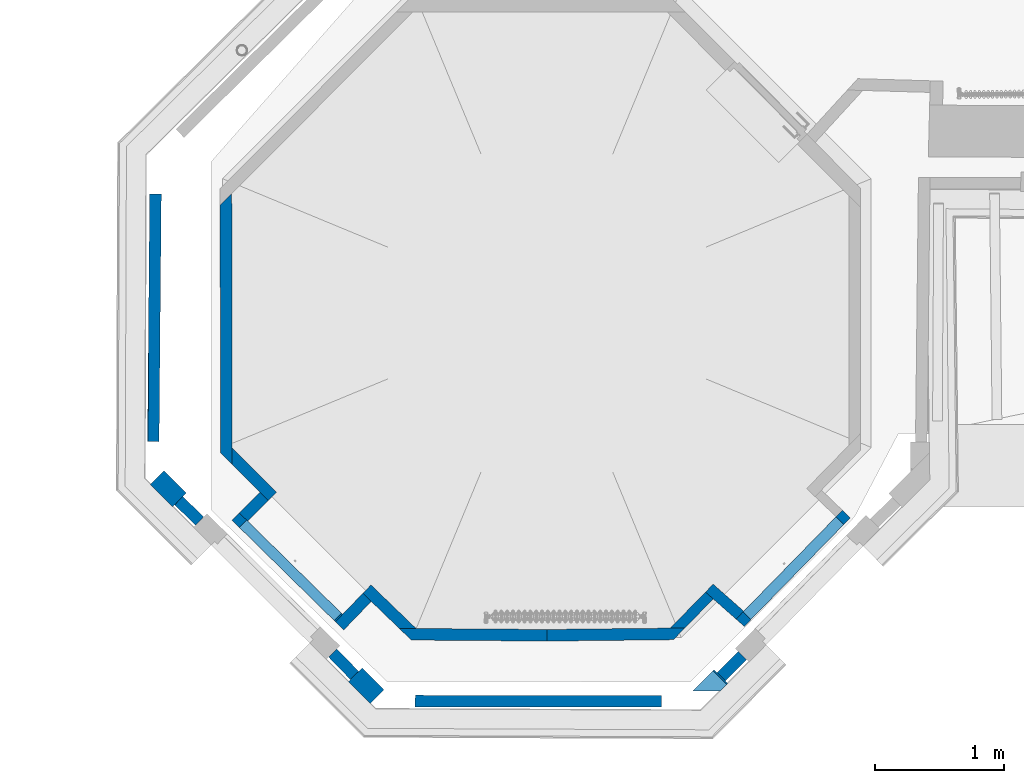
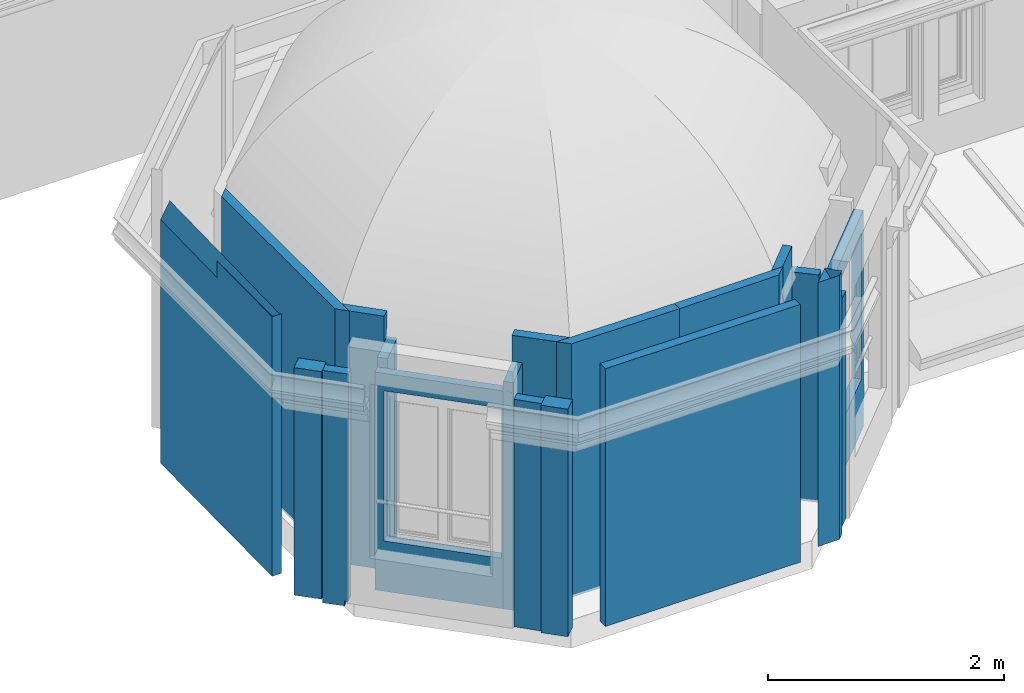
# One storey, part 4 of 72: 19 walls, 2 openings.
"""IFC2X3 building model written with IfcOpenShell, lengths in centimetres."""

from ifc_helpers import new_model, entity, si_unit, converted_unit, direction, frame, origin, origin_with_axes, origin_2d_with_axis, place, context, subcontext, project, spatial, polyline, rectangle, outline, extrude, clip, bounded_halfspace, shape, material, layer, layer_set, layer_usage, type_object, element, save


model = new_model("IFC2X3")

# Units and contexts
model_context = context("Model", 3, precision=0.0001, world=origin(), true_north=direction((0.225632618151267, 0.974212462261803, 0.0)))
body_context = subcontext(model_context, "Body", "Model", "MODEL_VIEW")
footprint_context = subcontext(model_context, "FootPrint", "Model", "MODEL_VIEW")
profile_context = subcontext(model_context, "Profile", "Model", "MODEL_VIEW")
ifc_project = project(units=[si_unit("LENGTHUNIT", "METRE", prefix="CENTI"), si_unit("AREAUNIT", "SQUARE_METRE", prefix="CENTI"), si_unit("VOLUMEUNIT", "CUBIC_METRE", prefix="CENTI"), converted_unit("PLANEANGLEUNIT", "DEGREE", entity("IfcRatioMeasure", 0.0174532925), si_unit("PLANEANGLEUNIT", "RADIAN"), dimensions=[0, 0, 0, 0, 0, 0, 0])], contexts=[model_context])

# Site, building, storey
site_placement = place(None, origin_with_axes())
site = spatial("IfcSite", under=ifc_project, at=site_placement, Name="Default Site", CompositionType="ELEMENT")
building_placement = place(site_placement, origin_with_axes())
building = spatial("IfcBuilding", under=site, at=building_placement, Name="Default Building", CompositionType="ELEMENT")
storey_placement = place(building_placement, frame((0.0, 0.0, 853.910374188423), z_axis=(0.0, 0.0, 1.0), x_axis=(1.0, 0.0, 0.0)))
storey = spatial("IfcBuildingStorey", under=building, at=storey_placement, Name="Niveau 2", CompositionType="ELEMENT", Elevation=853.910374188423)

# Walls
ifc_material = material(Name="<aucun>")
ifc_layer_1 = layer(ifc_material, 9.0)
ifc_layer_set_1 = layer_set([ifc_layer_1], Name="default")
ifc_layer_usage_1 = layer_usage(ifc_layer_set_1, "AXIS2", "POSITIVE", -4.5)
wall_type_1 = type_object("IfcWallType", Name="default 90", PredefinedType="NOTDEFINED", material=ifc_layer_set_1)
wall_1_placement = place(storey_placement, frame((-818.100513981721, -1119.35865631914, -1.95399252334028e-11), z_axis=(0.0, 0.0, 1.0), x_axis=(0.707579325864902, 0.706633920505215, 0.0)))
element("IfcWallStandardCase", 1, at=wall_1_placement, inside=storey, type_object=wall_type_1, material=ifc_layer_usage_1, Name="Enveloppe 466177", context=body_context, shape_type="SweptSolid", body=[
    extrude(rectangle(XDim=23.1636549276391, YDim=9.0000000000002, at=origin_2d_with_axis()), frame((11.681853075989, -8.88178419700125e-14, 1.98951966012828e-11), z_axis=(0.0, 0.0, 1.0), x_axis=(1.0, -1.21014309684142e-14, 0.0)), (0.0, 0.0, 1.0), 234.999999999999),
])
ifc_layer_usage_2 = layer_usage(ifc_layer_set_1, "AXIS2", "POSITIVE", -4.5)
wall_2_placement = place(storey_placement, frame((-1101.49557101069, -1118.55101095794, -1.95399252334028e-11), z_axis=(0.0, 0.0, 1.0), x_axis=(-0.696146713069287, 0.717899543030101, 0.0)))
element("IfcWallStandardCase", 2, at=wall_2_placement, inside=storey, type_object=wall_type_1, material=ifc_layer_usage_2, Name="Enveloppe 465918", context=body_context, shape_type="SweptSolid", body=[
    extrude(rectangle(XDim=8.9999999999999, YDim=24.162144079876, at=origin_2d_with_axis()), frame((12.3919400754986, 1.77635683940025e-13, 1.98951966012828e-11), z_axis=(0.0, 0.0, 1.0), x_axis=(1.37667655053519e-14, -1.0, 0.0)), (0.0, 0.0, 1.0), 234.999999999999),
])
ifc_layer_usage_3 = layer_usage(ifc_layer_set_1, "AXIS2", "POSITIVE", -4.5)
wall_3_placement = place(storey_placement, frame((-864.223911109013, -1138.40849649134, -1.95399252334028e-11), z_axis=(0.0, 0.0, 1.0), x_axis=(-0.999999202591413, 0.00126286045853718, 0.0)))
element("IfcWallStandardCase", 3, at=wall_3_placement, inside=storey, type_object=wall_type_1, material=ifc_layer_usage_3, Name="Enveloppe 465969", context=body_context, shape_type="Clipping", body=[
    clip(clip(extrude(outline(polyline([(190.516561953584, 4.49935106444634), (190.501569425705, 4.49933213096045), (190.514790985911, 4.49488070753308), (0.0736041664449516, 4.4999991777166), (0.0742552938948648, -4.49999999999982), (190.481342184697, -4.50000000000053), (190.516561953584, 4.49935106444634)])), frame((0.0, 0.0, 1.98951966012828e-11), z_axis=(0.0, 0.0, 1.0), x_axis=(1.0, 0.0, 0.0)), (0.0, 0.0, 1.0), 266.360128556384), bounded_halfspace(frame((0.0742552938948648, -4.49999999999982, 266.360128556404), z_axis=(-0.00251484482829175, -0.871957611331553, -0.489574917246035), x_axis=(0.00191564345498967, 0.489571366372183, -0.87196112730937)), True, frame((0.0742552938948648, -4.49999999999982, 266.360128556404), z_axis=(0.0, 0.0, 1.0), x_axis=(1.0, 0.0, 0.0)), polyline([(0.0, 1.77635683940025e-13), (190.407086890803, -5.32907051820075e-13), (190.440535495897, 8.99503600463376), (0.0, 9.00000000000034), (0.0, 1.77635683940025e-13)]))), bounded_halfspace(frame((190.516538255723, 4.49488291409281, 249.361526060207), z_axis=(-0.00251484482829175, -0.871957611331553, -0.489574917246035), x_axis=(0.856491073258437, -0.254576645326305, 0.449014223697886)), True, frame((190.516538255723, 4.49488291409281, 249.361526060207), z_axis=(0.0, 0.0, 1.0), x_axis=(1.0, 0.0, 0.0)), polyline([(-0.0149688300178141, 0.00444921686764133), (2.28783463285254e-05, 0.00511708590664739), (-0.0149688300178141, 0.00444921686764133)]))),
])
ifc_layer_usage_4 = layer_usage(ifc_layer_set_1, "AXIS2", "POSITIVE", -4.5)
wall_4_placement = place(storey_placement, frame((-1257.40110413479, -937.656896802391, -1.95399252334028e-11), z_axis=(0.0, 0.0, 1.0), x_axis=(0.00897423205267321, 0.999959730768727, 0.0)))
element("IfcWallStandardCase", 4, at=wall_4_placement, inside=storey, type_object=wall_type_1, material=ifc_layer_usage_4, Name="Enveloppe 465740", context=body_context, shape_type="Clipping", body=[
    clip(clip(clip(clip(clip(clip(extrude(outline(polyline([(0.144201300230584, 4.50000000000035), (0.144201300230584, -4.11118351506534), (0.156712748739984, -4.50011718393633), (191.70606206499, -4.49999999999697), (191.70606206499, 4.50000000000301), (0.144201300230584, 4.50000000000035)])), frame((0.0, 0.0, 1.95399252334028e-11), z_axis=(0.0, 0.0, 1.0), x_axis=(1.0, 0.0, 0.0)), (0.0, 0.0, 1.0), 268.245252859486), bounded_halfspace(frame((191.70606206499, -3.94984250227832, 267.24941645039), z_axis=(0.00470099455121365, -0.875296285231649, -0.483564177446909), x_axis=(0.00307166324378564, -0.48355459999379, 0.875308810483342)), True, frame((191.70606206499, -3.94984250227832, 267.24941645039), z_axis=(0.0, 0.0, 1.0), x_axis=(1.0, 0.0, 0.0)), polyline([(-0.0536755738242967, 8.44984250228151), (8.88178419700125e-14, 0.0), (-1.77635683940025e-13, 8.44984250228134), (-0.0536755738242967, 8.44984250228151)]))), bounded_halfspace(frame((0.144201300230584, 3.96185704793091, 251.0662232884), z_axis=(0.00470099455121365, -0.875296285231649, -0.483564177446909), x_axis=(0.999983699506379, 0.00568185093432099, -0.000563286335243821)), True, frame((0.144201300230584, 3.96185704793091, 251.0662232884), z_axis=(0.0, 0.0, 1.0), x_axis=(1.0, 0.0, 0.0)), polyline([(0.00305801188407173, 1.73754511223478e-05), (94.7110697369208, 0.538142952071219), (0.0, 0.53814295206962), (0.00305801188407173, 1.73754511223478e-05)]))), bounded_halfspace(frame((0.156711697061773, -4.49999999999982, 266.383095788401), z_axis=(0.00470099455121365, -0.875296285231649, -0.483564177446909), x_axis=(-0.00274754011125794, 0.483556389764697, -0.875308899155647)), True, frame((0.156711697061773, -4.49999999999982, 266.383095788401), z_axis=(0.0, 0.0, 1.0), x_axis=(1.0, 0.0, 0.0)), polyline([(-0.0125103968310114, -1.77635683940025e-13), (0.0, 1.77635683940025e-13), (-0.0125103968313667, 2.20178125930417), (-0.0125103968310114, -1.77635683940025e-13)]))), bounded_halfspace(frame((191.70606206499, -4.49999999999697, 268.245252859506), z_axis=(0.00470099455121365, -0.875296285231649, -0.483564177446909), x_axis=(-0.999983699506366, -0.00568185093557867, 0.00056328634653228)), True, frame((191.70606206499, -4.49999999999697, 268.245252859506), z_axis=(0.0, 0.0, 1.0), x_axis=(1.0, 0.0, 0.0)), polyline([(-96.825222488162, -1.06581410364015e-12), (0.0, 1.77635683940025e-13), (-0.0056638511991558, 0.550123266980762), (-96.825222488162, -1.06581410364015e-12)]))), bounded_halfspace(frame((94.880839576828, -4.49999999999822, 267.303961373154), z_axis=(0.00470099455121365, -0.875296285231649, -0.483564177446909), x_axis=(-0.00307166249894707, 0.483554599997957, -0.875308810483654)), True, frame((94.880839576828, -4.49999999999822, 267.303961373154), z_axis=(0.0, 0.0, 1.0), x_axis=(1.0, 0.0, 0.0)), polyline([(-94.7110695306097, -1.4210854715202e-12), (0.0, 1.77635683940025e-13), (96.8252224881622, 0.550155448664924), (96.7715469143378, 9.00000000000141), (-0.0255685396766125, 9.00000000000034), (-94.7366382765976, 8.4618570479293), (-94.7110695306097, -1.4210854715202e-12)]))), bounded_halfspace(frame((0.169770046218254, -4.49999999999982, 266.383222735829), z_axis=(0.00470099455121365, -0.875296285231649, -0.483564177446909), x_axis=(0.00274754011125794, -0.483556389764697, 0.875308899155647)), True, frame((0.169770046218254, -4.49999999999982, 266.383222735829), z_axis=(0.0, 0.0, 1.0), x_axis=(1.0, 0.0, 0.0)), polyline([(-0.0130583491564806, 1.77635683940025e-13), (0.0, 1.77635683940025e-13), (-0.025568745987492, 4.4999999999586), (-0.0130583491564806, 1.77635683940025e-13)]))),
])
ifc_layer_usage_5 = layer_usage(ifc_layer_set_1, "AXIS2", "POSITIVE", -4.5)
wall_5_placement = place(storey_placement, frame((-1221.49114347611, -998.849791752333, -4.99999999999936), z_axis=(0.0, 0.0, 1.0), x_axis=(-0.720187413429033, 0.693779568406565, 0.0)))
element("IfcWallStandardCase", 5, at=wall_5_placement, inside=storey, type_object=wall_type_1, material=ifc_layer_usage_5, Name="Enveloppe 465917", context=body_context, shape_type="Clipping", body=[
    clip(clip(extrude(rectangle(XDim=9.00000000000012, YDim=22.5454551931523, at=origin_2d_with_axis()), frame((11.3061138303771, -5.32907051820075e-13, 7.105427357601e-13), z_axis=(0.0, 0.0, 1.0), x_axis=(-1.4210854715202e-14, -1.0, 0.0)), (0.0, 0.0, 1.0), 239.999999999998), bounded_halfspace(frame((3.28163518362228, -4.50000000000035, 4.99999999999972), z_axis=(0.0, 0.0, 1.0), x_axis=(-1.0, 3.30013794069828e-13, 0.0)), True, frame((3.28163518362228, -4.50000000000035, 4.99999999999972), z_axis=(0.0, 0.0, 1.0), x_axis=(1.0, 0.0, 0.0)), polyline([(-3.24824894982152, -1.77635683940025e-13), (-3.24824894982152, 9.00000000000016), (0.0, 9.00000000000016), (-1.77635683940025e-13, 0.0), (-3.24824894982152, -1.77635683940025e-13)]))), bounded_halfspace(frame((22.5649014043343, 4.49999999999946, 4.99999999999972), z_axis=(0.0, 0.0, -1.0), x_axis=(-1.36557432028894e-14, -1.0, 0.0)), True, frame((22.5649014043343, 4.49999999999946, 4.99999999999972), z_axis=(0.0, 0.0, 1.0), x_axis=(1.0, 0.0, 0.0)), polyline([(-2.66453525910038e-13, -9.00000000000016), (0.0139400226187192, -8.99999999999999), (0.013940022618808, -1.77635683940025e-13), (0.0, 0.0), (-2.66453525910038e-13, -9.00000000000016)]))),
])
ifc_layer_usage_6 = layer_usage(ifc_layer_set_1, "AXIS2", "POSITIVE", -4.5)
wall_6_placement = place(storey_placement, frame((-1113.17419853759, -1079.91840818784, 1.4210854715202e-12), z_axis=(0.0, 0.0, 1.0), x_axis=(0.694178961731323, 0.719802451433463, 0.0)))
element("IfcWallStandardCase", 6, at=wall_6_placement, inside=storey, type_object=wall_type_1, material=ifc_layer_usage_6, Name="Enveloppe 470010", context=body_context, shape_type="Clipping", body=[
    clip(extrude(outline(polyline([(-0.0719047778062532, 4.50000000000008), (-0.153111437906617, -4.50000000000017), (30.5137238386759, -4.49999999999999), (30.5137238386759, 4.50000000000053), (-0.0719047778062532, 4.50000000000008)])), origin_with_axes(), (0.0, 0.0, 1.0), 234.999999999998), bounded_halfspace(frame((-0.153111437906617, -4.50000000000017, 224.999999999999), z_axis=(0.0, 0.0, -1.0), x_axis=(1.0, 4.79338790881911e-13, 0.0)), True, frame((-0.153111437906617, -4.50000000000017, 224.999999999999), z_axis=(0.0, 0.0, 1.0), x_axis=(1.0, 0.0, 0.0)), polyline([(1.77635683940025e-13, -8.88178419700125e-14), (0.153111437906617, 0.0), (0.153111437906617, 9.00000000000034), (0.0812066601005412, 9.00000000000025), (1.77635683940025e-13, -8.88178419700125e-14)]))),
])
ifc_layer_usage_7 = layer_usage(ifc_layer_set_1, "AXIS2", "POSITIVE", -4.5)
wall_7_placement = place(storey_placement, frame((-1187.59892836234, -995.740371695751, 1.4210854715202e-12), z_axis=(0.0, 0.0, 1.0), x_axis=(0.705234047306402, 0.708974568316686, 0.0)))
element("IfcWallStandardCase", 7, at=wall_7_placement, inside=storey, type_object=wall_type_1, material=ifc_layer_usage_7, Name="Enveloppe 470107", context=body_context, shape_type="Clipping", body=[
    clip(extrude(outline(polyline([(-0.0580676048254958, 4.49999999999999), (0.0, -4.50000000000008), (22.6636891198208, -4.50000000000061), (22.6636891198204, 4.49999999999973), (-0.0580676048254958, 4.49999999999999)])), frame((0.0, 0.0, 3.5527136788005e-13), z_axis=(0.0, 0.0, 1.0), x_axis=(1.0, 0.0, 0.0)), (0.0, 0.0, 1.0), 234.999999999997), bounded_halfspace(frame((0.0, -4.50000000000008, 224.999999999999), z_axis=(0.0, 0.0, -1.0), x_axis=(-1.3988810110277e-14, 1.0, 0.0)), True, frame((0.0, -4.50000000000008, 224.999999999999), z_axis=(0.0, 0.0, 1.0), x_axis=(1.0, 0.0, 0.0)), polyline([(-0.0580676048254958, 9.00000000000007), (0.0, 0.0), (-1.77635683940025e-13, 8.99999999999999), (-0.0580676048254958, 9.00000000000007)]))),
])
ifc_layer_usage_8 = layer_usage(ifc_layer_set_1, "AXIS2", "POSITIVE", -4.5)
wall_8_placement = place(storey_placement, frame((-1171.63255550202, -973.308453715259, 1.4210854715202e-12), z_axis=(0.0, 0.0, 1.0), x_axis=(-0.708974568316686, 0.705234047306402, 0.0)))
element("IfcWallStandardCase", 8, at=wall_8_placement, inside=storey, type_object=wall_type_1, material=ifc_layer_usage_8, Name="Enveloppe 159546", context=body_context, shape_type="Clipping", body=[
    clip(extrude(outline(polyline([(39.3859664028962, -4.50000000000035), (30.4050450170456, 4.50000000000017), (-9.00000000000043, 4.50000000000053), (-9.00000000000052, -4.50000000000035), (39.3859664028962, -4.50000000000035)])), frame((0.0, 0.0, -1.77635683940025e-13), z_axis=(0.0, 0.0, 1.0), x_axis=(1.0, 0.0, 0.0)), (0.0, 0.0, 1.0), 261.845587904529), bounded_halfspace(frame((-9.00000000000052, -4.50000000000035, 234.999999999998), z_axis=(0.0, 0.0, -1.0), x_axis=(1.0, -2.22044604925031e-16, 0.0)), True, frame((-9.00000000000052, -4.50000000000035, 234.999999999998), z_axis=(0.0, 0.0, 1.0), x_axis=(1.0, 0.0, 0.0)), polyline([(8.88178419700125e-14, -1.77635683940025e-13), (9.0000000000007, 1.77635683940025e-13), (9.00000000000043, 9.00000000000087), (1.77635683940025e-13, 9.00000000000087), (8.88178419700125e-14, -1.77635683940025e-13)]))),
])
ifc_layer_usage_9 = layer_usage(ifc_layer_set_1, "AXIS2", "POSITIVE", -4.5)
wall_9_placement = place(storey_placement, frame((-1057.20152777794, -1085.25504829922, 1.4210854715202e-12), z_axis=(0.0, 0.0, 1.0), x_axis=(-0.719802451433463, 0.694178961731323, 0.0)))
element("IfcWallStandardCase", 9, at=wall_9_placement, inside=storey, type_object=wall_type_1, material=ifc_layer_usage_9, Name="Enveloppe 159576", context=body_context, shape_type="SweptSolid", body=[
    extrude(outline(polyline([(48.4938489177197, 4.50000000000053), (9.47375931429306, 4.50000000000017), (-3.5527136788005e-13, -4.50000000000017), (48.4938489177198, -4.49999999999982), (48.4938489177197, 4.50000000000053)])), origin_with_axes(), (0.0, 0.0, 1.0), 261.845587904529),
])
ifc_layer_usage_10 = layer_usage(ifc_layer_set_1, "AXIS2", "POSITIVE", -4.5)
wall_10_placement = place(storey_placement, frame((-1200.88264517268, -942.348871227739, 1.4210854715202e-12), z_axis=(0.0, 0.0, 1.0), x_axis=(-0.00158390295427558, 0.999998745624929, 0.0)))
element("IfcWallStandardCase", 10, at=wall_10_placement, inside=storey, type_object=wall_type_1, material=ifc_layer_usage_10, Name="Enveloppe 159427", context=body_context, shape_type="SweptSolid", body=[
    extrude(outline(polyline([(187.74720962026, 4.49999999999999), (-3.7335172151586, 4.50000000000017), (-12.7144386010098, -4.49999999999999), (196.757083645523, -4.50000000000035), (187.74720962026, 4.49999999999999)])), frame((0.0, 0.0, -3.5527136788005e-13), z_axis=(0.0, 0.0, 1.0), x_axis=(1.0, 0.0, 0.0)), (0.0, 0.0, 1.0), 261.845587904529),
])
ifc_layer_usage_11 = layer_usage(ifc_layer_set_1, "AXIS2", "POSITIVE", -4.5)
wall_11_placement = place(storey_placement, frame((-952.70128560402, -1087.27764034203, 1.4210854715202e-12), z_axis=(0.0, 0.0, 1.0), x_axis=(0.999939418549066, 0.0110072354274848, 0.0)))
element("IfcWallStandardCase", 11, at=wall_11_placement, inside=storey, type_object=wall_type_1, material=ifc_layer_usage_11, Name="Enveloppe 159345", context=body_context, shape_type="SweptSolid", body=[
    extrude(outline(polyline([(0.0166248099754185, 4.49999999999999), (0.0166248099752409, -4.49999999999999), (97.675020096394, -4.50000000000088), (106.666846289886, 4.4999999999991), (0.0166248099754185, 4.49999999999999)])), frame((0.0, 0.0, -3.5527136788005e-13), z_axis=(0.0, 0.0, 1.0), x_axis=(1.0, 0.0, 0.0)), (0.0, 0.0, 1.0), 261.845587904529),
])
ifc_layer_usage_12 = layer_usage(ifc_layer_set_1, "AXIS2", "POSITIVE", -4.5)
wall_12_placement = place(storey_placement, frame((-952.784657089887, -1087.27778572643, 1.4210854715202e-12), z_axis=(0.0, 0.0, 1.0), x_axis=(-0.999971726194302, 0.00751976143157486, 0.0)))
element("IfcWallStandardCase", 12, at=wall_12_placement, inside=storey, type_object=wall_type_1, material=ifc_layer_usage_12, Name="Enveloppe 159320", context=body_context, shape_type="SweptSolid", body=[
    extrude(outline(polyline([(114.396984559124, -4.49999999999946), (104.92322524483, 4.50000000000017), (-0.183358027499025, 4.49814737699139), (-0.0166219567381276, -4.50030799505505), (114.396984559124, -4.49999999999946)])), frame((0.0, 0.0, -7.105427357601e-13), z_axis=(0.0, 0.0, 1.0), x_axis=(1.0, 0.0, 0.0)), (0.0, 0.0, 1.0), 261.84558790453),
])
ifc_layer_2 = layer(ifc_material, 15.0)
ifc_layer_set_2 = layer_set([ifc_layer_2], Name="default")
ifc_layer_usage_13 = layer_usage(ifc_layer_set_2, "AXIS2", "POSITIVE", -7.5)
wall_type_2 = type_object("IfcWallType", Name="default 150", PredefinedType="NOTDEFINED", material=ifc_layer_set_2)
wall_13_placement = place(storey_placement, frame((-839.093236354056, -1139.99665325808, -1.95399252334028e-11), z_axis=(0.0, 0.0, 1.0), x_axis=(0.708650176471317, 0.705560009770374, 0.0)))
element("IfcWallStandardCase", 13, at=wall_13_placement, inside=storey, type_object=wall_type_2, material=ifc_layer_usage_13, Name="Enveloppe 460516", context=body_context, shape_type="Clipping", body=[
    clip(clip(clip(clip(extrude(outline(polyline([(6.18055601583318, 7.50056718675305), (21.2939047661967, -7.49999999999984), (29.4446919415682, -7.49999999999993), (29.444691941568, -4.6865000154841), (29.5446918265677, -4.68634835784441), (29.531042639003, 4.3136412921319), (29.4446919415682, 4.31351033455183), (29.4446919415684, 7.50000000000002), (6.18055601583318, 7.50056718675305)])), frame((0.0, 0.0, 2.00728322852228e-11), z_axis=(0.0, 0.0, 1.0), x_axis=(1.0, 0.0, 0.0)), (0.0, 0.0, 1.0), 272.657334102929), bounded_halfspace(frame((29.444691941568, 4.31351033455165, 266.858625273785), z_axis=(-0.00343018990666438, 0.870517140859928, -0.49212614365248), x_axis=(-0.000746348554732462, 0.49212667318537, 0.87052327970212)), True, frame((29.444691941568, 4.31351033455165, 266.858625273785), z_axis=(0.0, 0.0, 1.0), x_axis=(1.0, 0.0, 0.0)), polyline([(-3.5527136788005e-13, -9.00001035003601), (0.099999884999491, -8.99985869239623), (0.0863506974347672, 0.000130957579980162), (0.0, 8.88178419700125e-14), (-3.5527136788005e-13, -9.00001035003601)]))), bounded_halfspace(frame((6.65840317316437, 7.49999999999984, 272.653999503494), z_axis=(-0.00343018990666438, 0.870517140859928, -0.49212614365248), x_axis=(1.2490009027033e-14, 0.492129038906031, 0.870522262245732)), True, frame((6.65840317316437, 7.49999999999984, 272.653999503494), z_axis=(0.0, 0.0, 1.0), x_axis=(1.0, 0.0, 0.0)), polyline([(-0.122835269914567, -0.352896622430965), (14.6355015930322, -14.9999999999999), (21.6911629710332, -14.9999999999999), (21.6911629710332, 8.88178419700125e-14), (0.0, 1.77635683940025e-13), (-0.122835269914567, -0.352896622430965)]))), bounded_halfspace(frame((28.3495661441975, 7.49999999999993, 272.502808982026), z_axis=(-0.00343018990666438, 0.870517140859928, -0.49212614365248), x_axis=(-1.2490009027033e-14, -0.492129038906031, -0.870522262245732)), True, frame((28.3495661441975, 7.49999999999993, 272.502808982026), z_axis=(0.0, 0.0, 1.0), x_axis=(1.0, 0.0, 0.0)), polyline([(0.0, -15.0), (1.0951257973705, -15.0), (1.0951257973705, -1.77635683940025e-13), (0.0, 0.0), (0.0, -15.0)]))), bounded_halfspace(frame((6.17999130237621, 7.50000000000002, 272.657334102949), z_axis=(-0.00343018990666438, 0.870517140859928, -0.49212614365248), x_axis=(0.169010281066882, 0.485554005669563, 0.857713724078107)), True, frame((6.17999130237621, 7.50000000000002, 272.657334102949), z_axis=(0.0, 0.0, 1.0), x_axis=(1.0, 0.0, 0.0)), polyline([(0.0, 0.0), (0.355576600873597, -0.352896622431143), (0.478411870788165, 0.0), (0.0, 0.0)]))),
])
ifc_layer_usage_14 = layer_usage(ifc_layer_set_2, "AXIS2", "POSITIVE", -7.5)
wall_14_placement = place(storey_placement, frame((-1079.97185854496, -1138.95358572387, -1.95399252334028e-11), z_axis=(0.0, 0.0, 1.0), x_axis=(-0.708665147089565, 0.70554497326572, 0.0)))
element("IfcWallStandardCase", 14, at=wall_14_placement, inside=storey, type_object=wall_type_2, material=ifc_layer_usage_14, Name="Enveloppe 461843", context=body_context, shape_type="SweptSolid", body=[
    extrude(outline(polyline([(29.8797148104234, 7.49999999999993), (6.09613489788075, 7.49999999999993), (6.09613489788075, -7.49999999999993), (29.8797148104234, -7.49999999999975), (29.8797148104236, -3.77741789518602), (30.0380029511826, 5.22119004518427), (29.8797148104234, 5.22397437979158), (29.8797148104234, 7.49999999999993)])), frame((0.0, 0.0, 1.98951966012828e-11), z_axis=(0.0, 0.0, 1.0), x_axis=(1.0, 0.0, 0.0)), (0.0, 0.0, 1.0), 234.999999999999),
])
ifc_layer_usage_15 = layer_usage(ifc_layer_set_2, "AXIS2", "POSITIVE", -7.5)
wall_15_placement = place(storey_placement, frame((-1237.1362534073, -982.481168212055, 6.75015598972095e-12), z_axis=(0.0, 0.0, 1.0), x_axis=(-0.708665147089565, 0.70554497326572, 0.0)))
element("IfcWallStandardCase", 15, at=wall_15_placement, inside=storey, type_object=wall_type_2, material=ifc_layer_usage_15, Name="Enveloppe 461612", context=body_context, shape_type="SweptSolid", body=[
    extrude(outline(polyline([(24.3178370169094, 7.49999999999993), (-1.77635683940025e-13, 7.49999999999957), (-8.88178419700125e-14, 5.43495597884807), (-0.148204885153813, 5.43251512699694), (-8.88178419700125e-14, -3.56626452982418), (8.88178419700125e-14, -7.49999999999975), (24.3178370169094, -7.49999999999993), (24.3178370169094, 7.49999999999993)])), frame((0.0, 0.0, -6.57252030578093e-12), z_axis=(0.0, 0.0, 1.0), x_axis=(1.0, 0.0, 0.0)), (0.0, 0.0, 1.0), 234.999999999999),
])
ifc_layer_3 = layer(ifc_material, 8.0)
ifc_layer_set_3 = layer_set([ifc_layer_3], Name="default")
ifc_layer_usage_16 = layer_usage(ifc_layer_set_3, "AXIS2", "POSITIVE", -4.0)
wall_type_3 = type_object("IfcWallType", Name="default 80", PredefinedType="NOTDEFINED", material=ifc_layer_set_3)
wall_16_placement = place(storey_placement, frame((-854.539340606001, -1084.52582328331, 1.4210854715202e-12), z_axis=(0.0, 0.0, 1.0), x_axis=(0.698955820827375, 0.71516484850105, 0.0)))
element("IfcWallStandardCase", 16, at=wall_16_placement, inside=storey, type_object=wall_type_3, material=ifc_layer_usage_16, Name="Enveloppe 161634", context=body_context, shape_type="Clipping", body=[
    clip(extrude(outline(polyline([(0.00240226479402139, 3.99999999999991), (7.99513665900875, -3.99999999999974), (39.3730345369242, -3.99999999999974), (39.3730345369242, 4.00000000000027), (0.00240226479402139, 3.99999999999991)])), origin_with_axes(), (0.0, 0.0, 1.0), 261.845587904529), bounded_halfspace(frame((38.9698230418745, 4.00000000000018, 234.999999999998), z_axis=(0.0, 0.0, 1.0), x_axis=(1.0, 2.93709501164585e-13, 0.0)), True, frame((38.9698230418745, 4.00000000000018, 234.999999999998), z_axis=(0.0, 0.0, 1.0), x_axis=(1.0, 0.0, 0.0)), polyline([(-1.77635683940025e-13, 0.0), (0.40321149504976, 8.88178419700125e-14), (0.40321149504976, -7.99999999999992), (-1.77635683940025e-13, 0.0)]))),
])

# Wall, opening
ifc_layer_usage_17 = layer_usage(ifc_layer_set_3, "AXIS2", "POSITIVE", -4.0)
wall_17_placement = place(storey_placement, frame((-1110.47547042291, -1077.12006479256, 1.4210854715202e-12), z_axis=(0.0, 0.0, 1.0), x_axis=(-0.713509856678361, 0.700645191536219, 0.0)))
wall_17 = element("IfcWallStandardCase", 17, at=wall_17_placement, inside=storey, type_object=wall_type_3, material=ifc_layer_usage_17, Name="Enveloppe 159305", context=body_context, shape_type="SweptSolid", body=[
    extrude(outline(polyline([(116.598534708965, 4.00000000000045), (4.4640913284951, 3.99999999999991), (4.53627502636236, -3.99999999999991), (116.546919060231, -3.99999999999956), (116.598534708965, 4.00000000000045)])), frame((0.0, 0.0, 1.77635683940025e-13), z_axis=(0.0, 0.0, 1.0), x_axis=(1.0, 0.0, 0.0)), (0.0, 0.0, 1.0), 224.999999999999),
])
opening_1_placement = place(wall_17_placement, frame((5.87434945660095, -2.27373675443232e-13, 51.9999999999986), z_axis=(0.0, 0.0, 1.0), x_axis=(-1.0, -2.88657986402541e-15, 0.0)))
cartesian_point_1 = entity("IfcCartesianPoint", [0.0, -3.5527136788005e-13, 155.0])
cartesian_point_2 = entity("IfcCartesianPoint", [-102.786452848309, -4.00000000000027])
element("IfcOpeningElement", 18, at=opening_1_placement, cuts=wall_17, Name="4294966434_11", ObjectType="Opening", shapes=[
    shape(body_context, "Body", "SweptSolid", [extrude(outline(polyline([(0.0, 155.0), (0.0, -1.77635683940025e-13), (102.786452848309, -1.77635683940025e-13), (102.786452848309, 155.0), (0.0, 155.0)])), frame((0.0, -14.0, 0.0), z_axis=(0.0, 1.0, 0.0), x_axis=(-1.0, 0.0, 0.0)), (0.0, 0.0, 1.0), 28.0)]),
    shape(profile_context, "Profile", "GeometricCurveSet", [entity("IfcGeometricCurveSet", [entity("IfcPolyline", [cartesian_point_1, entity("IfcCartesianPoint", [0.0, -3.5527136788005e-13, -1.77635683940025e-13]), entity("IfcCartesianPoint", [-102.786452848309, -3.5527136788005e-13, -1.77635683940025e-13]), entity("IfcCartesianPoint", [-102.786452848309, -3.5527136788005e-13, 155.0]), cartesian_point_1])])]),
    shape(footprint_context, "FootPrint", "GeometricCurveSet", [entity("IfcGeometricCurveSet", [entity("IfcPolyline", [cartesian_point_2, entity("IfcCartesianPoint", [0.0, -4.00000000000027]), entity("IfcCartesianPoint", [0.0, 3.99999999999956]), entity("IfcCartesianPoint", [-102.786452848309, 3.99999999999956]), cartesian_point_2])])]),
])

# Wall
ifc_layer_4 = layer(ifc_material, 8.5)
ifc_layer_set_4 = layer_set([ifc_layer_4], Name="default")
ifc_layer_usage_18 = layer_usage(ifc_layer_set_4, "AXIS2", "POSITIVE", -4.25)
wall_type_4 = type_object("IfcWallType", Name="default 85", PredefinedType="NOTDEFINED", material=ifc_layer_set_4)
wall_18_placement = place(storey_placement, frame((-803.710630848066, -1071.55670450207, 1.4210854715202e-12), z_axis=(0.0, 0.0, 1.0), x_axis=(-0.749441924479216, 0.662070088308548, 0.0)))
element("IfcWallStandardCase", 19, at=wall_18_placement, inside=storey, type_object=wall_type_4, material=ifc_layer_usage_18, Name="Enveloppe 161839", context=body_context, shape_type="Clipping", body=[
    clip(extrude(outline(polyline([(31.5399844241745, 4.24999999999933), (8.88178419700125e-14, 4.24999999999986), (-0.428412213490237, -4.25000000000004), (31.1115722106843, -4.25000000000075), (31.5399844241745, 4.24999999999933)])), origin_with_axes(), (0.0, 0.0, 1.0), 234.999999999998), bounded_halfspace(frame((-0.428412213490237, -4.25000000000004, 223.703540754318), z_axis=(0.0, 0.0, -1.0), x_axis=(1.0, 1.05943032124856e-12, 0.0)), True, frame((-0.428412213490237, -4.25000000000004, 223.703540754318), z_axis=(0.0, 0.0, 1.0), x_axis=(1.0, 0.0, 0.0)), polyline([(0.0, 0.0), (0.428412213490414, 1.77635683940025e-13), (0.428412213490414, 8.50000000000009), (0.0, 0.0)]))),
])

# Wall, opening
ifc_layer_usage_19 = layer_usage(ifc_layer_set_4, "AXIS2", "POSITIVE", -4.25)
wall_19_placement = place(storey_placement, frame((-805.83974174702, -1080.1217663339, 1.4210854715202e-12), z_axis=(0.0, 0.0, 1.0), x_axis=(0.69895582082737, 0.715164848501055, 0.0)))
wall_19 = element("IfcWallStandardCase", 20, at=wall_19_placement, inside=storey, type_object=wall_type_4, material=ifc_layer_usage_19, Name="Enveloppe 161633", context=body_context, shape_type="SweptSolid", body=[
    extrude(outline(polyline([(3.36897348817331, 4.2500000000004), (3.79738570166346, -4.25000000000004), (121.166138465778, -4.24999999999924), (121.092915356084, 4.25000000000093), (3.36897348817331, 4.2500000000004)])), frame((0.0, 0.0, -3.5527136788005e-13), z_axis=(0.0, 0.0, 1.0), x_axis=(1.0, 0.0, 0.0)), (0.0, 0.0, 1.0), 223.703540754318),
])
opening_2_placement = place(wall_19_placement, frame((11.0550820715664, 0.0, 53.9999999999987), z_axis=(0.0, 0.0, 1.0), x_axis=(1.0, 6.60582699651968e-15, 0.0)))
cartesian_point_3 = entity("IfcCartesianPoint", [0.0, 0.0, 151.0])
cartesian_point_4 = entity("IfcCartesianPoint", [103.0, 4.25000000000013])
element("IfcOpeningElement", 21, at=opening_2_placement, cuts=wall_19, Name="4294966431_11", ObjectType="Opening", shapes=[
    shape(body_context, "Body", "SweptSolid", [extrude(outline(polyline([(0.0, 151.0), (0.0, 0.0), (103.0, 0.0), (103.0, 151.0), (0.0, 151.0)])), frame((0.0, 14.25, 0.0), z_axis=(0.0, -1.0, 0.0), x_axis=(1.0, 0.0, 0.0)), (0.0, 0.0, 1.0), 28.5)]),
    shape(profile_context, "Profile", "GeometricCurveSet", [entity("IfcGeometricCurveSet", [entity("IfcPolyline", [cartesian_point_3, entity("IfcCartesianPoint", [0.0, 0.0, 0.0]), entity("IfcCartesianPoint", [103.0, 8.88178419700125e-14, 0.0]), entity("IfcCartesianPoint", [103.0, 8.88178419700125e-14, 151.0]), cartesian_point_3])])]),
    shape(footprint_context, "FootPrint", "GeometricCurveSet", [entity("IfcGeometricCurveSet", [entity("IfcPolyline", [cartesian_point_4, entity("IfcCartesianPoint", [0.0, 4.25000000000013]), entity("IfcCartesianPoint", [0.0, -4.25000000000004]), entity("IfcCartesianPoint", [103.0, -4.25000000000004]), cartesian_point_4])])]),
])

save(model, "model.ifc")
